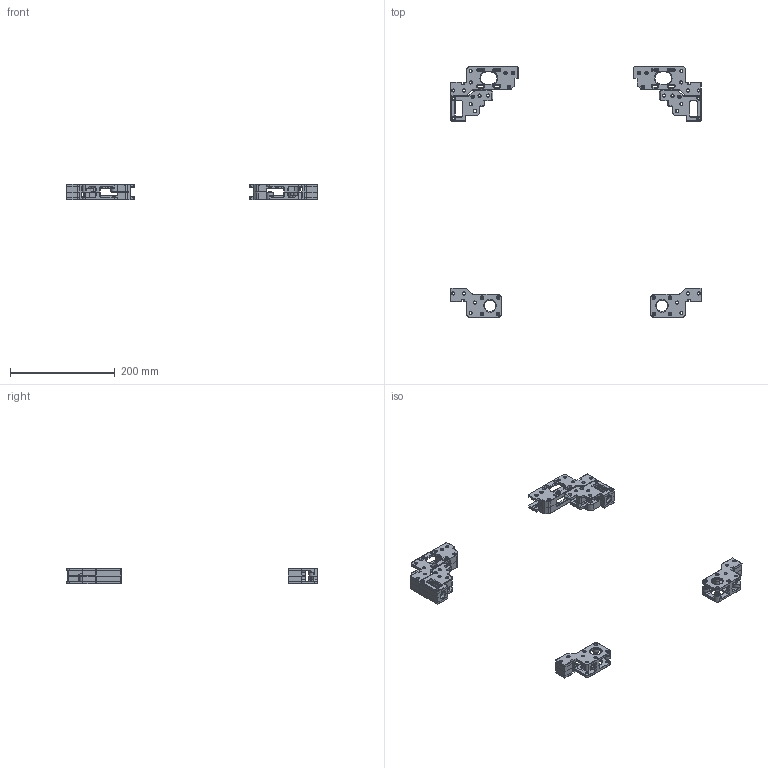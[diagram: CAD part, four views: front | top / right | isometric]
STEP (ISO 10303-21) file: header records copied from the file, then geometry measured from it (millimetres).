
FILE_DESCRIPTION(/* description */ (''),/* implementation_level */ '2;1');
FILE_NAME(/* name */ 'Steph''s Removable Y 12mm Rods.step',/* time_stamp */ '2024-08-22T23:35:31-04:00',/* author */ (''),/* organization */ (''),/* preprocessor_version */ 'ST-DEVELOPER v20',/* originating_system */ 'Autodesk Translation Framework v13.14.0.145',/* authorisation */ '');
FILE_SCHEMA (('AUTOMOTIVE_DESIGN { 1 0 10303 214 3 1 1 }'));
Products named in the file (14): Steph's Removable Y 12mm Rods; Printed Parts (12); rear a upper motor mount; rear a lower motor mount; rear b upper motor mount; rear b lower motor mount; front a1 upper motor mount; front a1 lower motor mount; front b1 upper motor mount; front b1 lower motor mount; gates x carriage top left; gates x carraige bottom left; gates x carraige top right; gates x carriage bottom right
Assembly tree (13 placements, depth 3):
  Steph's Removable Y 12mm Rods
    Printed Parts (12)
      rear a upper motor mount
      rear a lower motor mount
      rear b upper motor mount
      rear b lower motor mount
      front a1 upper motor mount
      front a1 lower motor mount
      front b1 upper motor mount
      front b1 lower motor mount
      gates x carriage top left
      gates x carraige bottom left
      gates x carraige top right
      gates x carriage bottom right
Bounding box: 478.05 x 478.04 x 30.01 mm (x, y, z)
Volume: 318367.8 mm3; surface area: 172434.7 mm2
Topology: 24 solids, 24 shells, 2614 faces, 6546 edges, 3998 vertices
Faces by surface type: plane 1690, cone 466, cylinder 406, bspline 32, torus 20
Full cylindrical faces by diameter (mm): 1.8 x2, 3.2 x16, 3.4 x28, 4.7 x13, 5.2 x48, 5.3 x8, 5.4 x8, 6 x24, 10 x2, 12.4 x4, 22 x2, 23.75 x2
Entity records: 82413 total; most frequent: CARTESIAN_POINT 18417, DIRECTION 13311, ORIENTED_EDGE 13068, EDGE_CURVE 6534, LINE 4823, VECTOR 4823, AXIS2_PLACEMENT_3D 4244, VERTEX_POINT 3998
